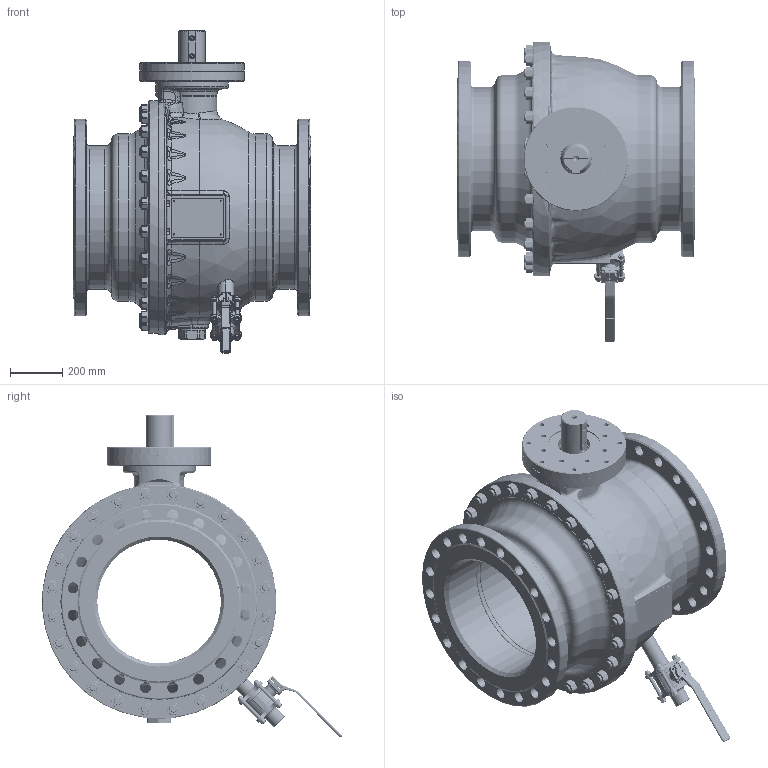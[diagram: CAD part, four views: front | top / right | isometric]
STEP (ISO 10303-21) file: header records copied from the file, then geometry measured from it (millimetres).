
FILE_DESCRIPTION((''),'2;1');
FILE_NAME('ASM0001_ASM','2022-01-13T10:04:29',('schwaba'),('KLINGER'),'CREO PARAMETRIC BY PTC INC, 2018420','CREO PARAMETRIC BY PTC INC, 2018420','');
FILE_SCHEMA(('AUTOMOTIVE_DESIGN { 1 0 10303 214 1 1 1 1 }'));
Products named in the file (4): KHI_500_PN40_FR_WE_ENTL_O_IT; KHIZWIPLA-----500--------CS-F25; ZYLSCHR-ISKT--M20X40--8_8; ASM0001_ASM
Assembly tree (10 placements, depth 2):
  ASM0001_ASM
    KHI_500_PN40_FR_WE_ENTL_O_IT
    KHIZWIPLA-----500--------CS-F25
    ZYLSCHR-ISKT--M20X40--8_8  x8
Bounding box: 914 x 1151.69 x 1238.64 mm (x, y, z)
Volume: 152883326.4 mm3; surface area: 10795394.6 mm2
Topology: 10 solids, 31 shells, 3808 faces, 9234 edges, 5543 vertices
Faces by surface type: cylinder 1133, plane 783, cone 760, bspline 619, torus 452, sphere 61
Entity records: 290408 total; most frequent: CARTESIAN_POINT 207151, ORIENTED_EDGE 17526, DIRECTION 16771, EDGE_CURVE 8782, AXIS2_PLACEMENT_3D 7331, VERTEX_POINT 5297, CIRCLE 4254, EDGE_LOOP 3989
